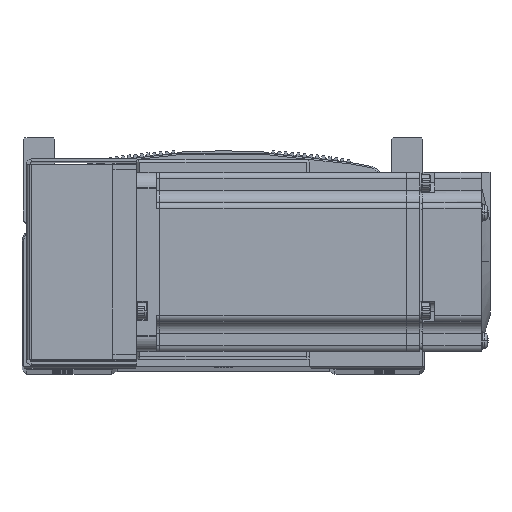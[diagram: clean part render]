
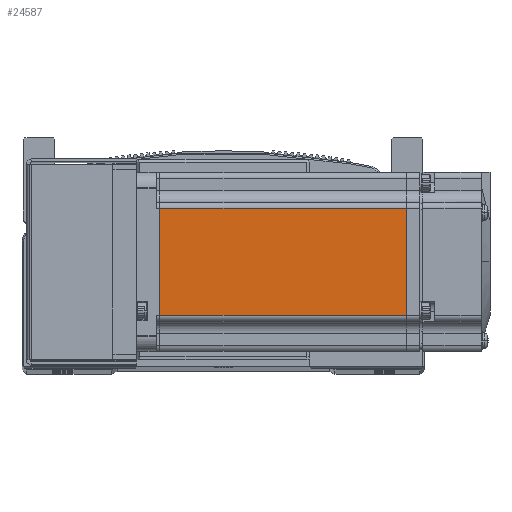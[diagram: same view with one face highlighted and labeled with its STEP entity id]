
A CAD part, top view. The second image highlights one B-rep face of the part: STEP entity #24587.
In plain terms, the highlighted planar face has unit normal (0, 0, 1) as drawn and (0, 0, -1) by its records, which use the part's own axes.
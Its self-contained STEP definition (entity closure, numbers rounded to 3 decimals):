
#5440 = AXIS2_PLACEMENT_3D ( 'NONE', #50729, #50762, #50771 ) ;
#16315 = LINE ( 'NONE', #28485, #16323 ) ;
#16323 = VECTOR ( 'NONE', #28488, 1000. ) ;
#16418 = LINE ( 'NONE', #28525, #16489 ) ;
#16441 = LINE ( 'NONE', #28530, #16502 ) ;
#16489 = VECTOR ( 'NONE', #28559, 1000. ) ;
#16492 = LINE ( 'NONE', #28496, #16504 ) ;
#16502 = VECTOR ( 'NONE', #28560, 1000. ) ;
#16504 = VECTOR ( 'NONE', #28514, 1000. ) ;
#24587 = ADVANCED_FACE ( 'NONE', ( #27673 ), #50724, .T. ) ;
#27673 = FACE_OUTER_BOUND ( 'NONE', #69059, .T. ) ;
#28485 = CARTESIAN_POINT ( 'NONE',  ( -90.45, 25., -30. ) ) ;
#28488 = DIRECTION ( 'NONE',  ( 0., 1., 0. ) ) ;
#28496 = CARTESIAN_POINT ( 'NONE',  ( -7.75, 25., -30. ) ) ;
#28514 = DIRECTION ( 'NONE',  ( 0., -1., 0. ) ) ;
#28525 = CARTESIAN_POINT ( 'NONE',  ( -6.5, 18., -30. ) ) ;
#28530 = CARTESIAN_POINT ( 'NONE',  ( -6.5, -18., -30. ) ) ;
#28559 = DIRECTION ( 'NONE',  ( 1., 0., 0. ) ) ;
#28560 = DIRECTION ( 'NONE',  ( -1., 0., 0. ) ) ;
#30636 = CARTESIAN_POINT ( 'NONE',  ( -90.45, -18., -30. ) ) ;
#30669 = CARTESIAN_POINT ( 'NONE',  ( -7.75, -18., -30. ) ) ;
#30690 = CARTESIAN_POINT ( 'NONE',  ( -7.75, 18., -30. ) ) ;
#30709 = CARTESIAN_POINT ( 'NONE',  ( -90.45, 18., -30. ) ) ;
#50724 = PLANE ( 'NONE',  #5440 ) ;
#50729 = CARTESIAN_POINT ( 'NONE',  ( -6.5, 25., -30. ) ) ;
#50762 = DIRECTION ( 'NONE',  ( 0., 0., -1. ) ) ;
#50771 = DIRECTION ( 'NONE',  ( -1., 0., 0. ) ) ;
#63880 = VERTEX_POINT ( 'NONE', #30636 ) ;
#63921 = VERTEX_POINT ( 'NONE', #30709 ) ;
#63926 = VERTEX_POINT ( 'NONE', #30669 ) ;
#63935 = VERTEX_POINT ( 'NONE', #30690 ) ;
#65297 = EDGE_CURVE ( 'NONE', #63880, #63921, #16315, .T. ) ;
#65304 = EDGE_CURVE ( 'NONE', #63935, #63926, #16492, .T. ) ;
#65319 = EDGE_CURVE ( 'NONE', #63921, #63935, #16418, .T. ) ;
#65321 = EDGE_CURVE ( 'NONE', #63926, #63880, #16441, .T. ) ;
#69059 = EDGE_LOOP ( 'NONE', ( #69634, #69623, #69579, #69643 ) ) ;
#69579 = ORIENTED_EDGE ( 'NONE', *, *, #65297, .T. ) ;
#69623 = ORIENTED_EDGE ( 'NONE', *, *, #65321, .T. ) ;
#69634 = ORIENTED_EDGE ( 'NONE', *, *, #65304, .T. ) ;
#69643 = ORIENTED_EDGE ( 'NONE', *, *, #65319, .T. ) ;
